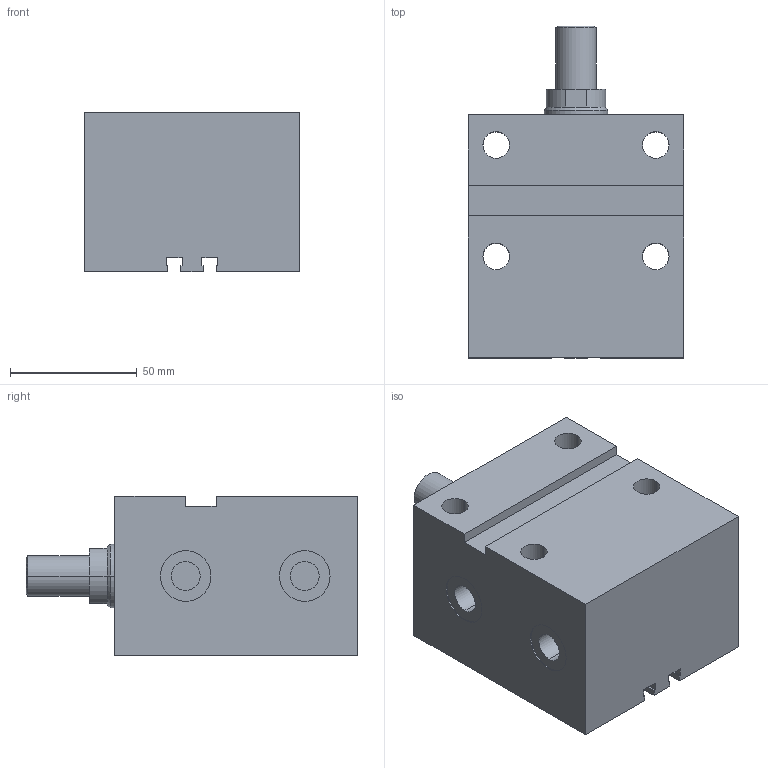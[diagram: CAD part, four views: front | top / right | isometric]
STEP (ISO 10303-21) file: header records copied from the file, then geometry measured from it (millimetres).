
FILE_DESCRIPTION (( 'STEP AP203' ), '1' );
FILE_NAME ('GERMA_Blockzylinder_701-040-025-A.STEP', '2016-07-23T10:10:27', ( '' ), ( '' ), 'SwSTEP 2.0', 'SolidWorks 2015', '' );
FILE_SCHEMA (( 'CONFIG_CONTROL_DESIGN' ));
Length unit declared in the file: millimetre
Products named in the file (3): GH-700-040_GH-701-040-025; Kolben_MT 70x-040_Kolben_MT DU.40-Hub25-AG; GERMA_Blockzylinder_701-040-025-A
Assembly tree (2 placements, depth 2):
  GERMA_Blockzylinder_701-040-025-A
    GH-700-040_GH-701-040-025
    Kolben_MT 70x-040_Kolben_MT DU.40-Hub25-AG
Bounding box: 85 x 131 x 63 mm (x, y, z)
Volume: 468461.4 mm3; surface area: 72877 mm2
Topology: 2 solids, 2 shells, 92 faces, 216 edges, 137 vertices
Faces by surface type: plane 43, cylinder 37, cone 12
Entity records: 2938 total; most frequent: DIRECTION 491, CARTESIAN_POINT 446, ORIENTED_EDGE 424, EDGE_CURVE 212, AXIS2_PLACEMENT_3D 182, VERTEX_POINT 137, VECTOR 127, LINE 127
